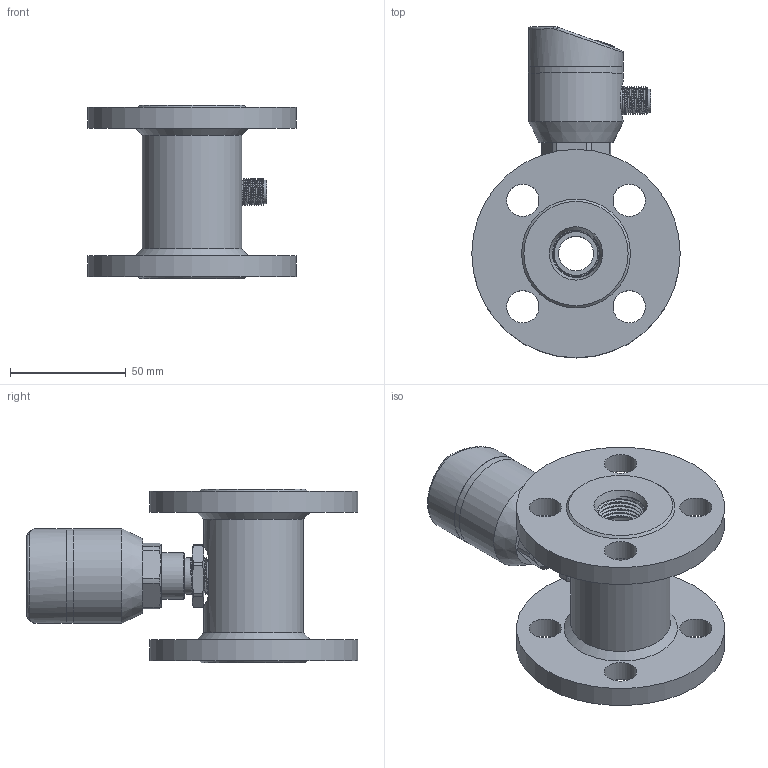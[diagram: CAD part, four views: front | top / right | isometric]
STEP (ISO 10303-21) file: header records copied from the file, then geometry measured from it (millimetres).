
FILE_DESCRIPTION( (''), '2;1');
FILE_NAME( 'QTKA_DN15_flange.step', '2024-01-11T13:35:32+08:00', (''), (''), '', '', '');
FILE_SCHEMA (('AUTOMOTIVE_DESIGN { 1 0 10303 214 3 1 1 1 }'));
Length unit declared in the file: millimetre
Products named in the file (1): QTKA DN15_flange
Bounding box: 90 x 143.3 x 75 mm (x, y, z)
Volume: 202644 mm3; surface area: 65742.3 mm2
Topology: 5 solids, 7 shells, 455 faces, 1097 edges, 698 vertices
Faces by surface type: plane 155, cylinder 152, cone 57, bspline 46, torus 39, sphere 6
Full cylindrical faces by diameter (mm): 1 x5, 2.7 x4, 8.4 x1, 9.7 x1, 9.8 x1, 10.1 x1, 11.6 x1, 12 x1, 14 x8, 15 x1, 15.9 x1, 17 x1, 20 x1, 21 x2, 23 x3, 26 x4, 26.1 x1, 37 x1, 41 x3, 43 x1, 90 x2
Entity records: 33445 total; most frequent: CARTESIAN_POINT 22082, DIRECTION 1998, ORIENTED_EDGE 1958, EDGE_CURVE 979, AXIS2_PLACEMENT_3D 811, VERTEX_POINT 652, EDGE_LOOP 587, ADVANCED_FACE 451
